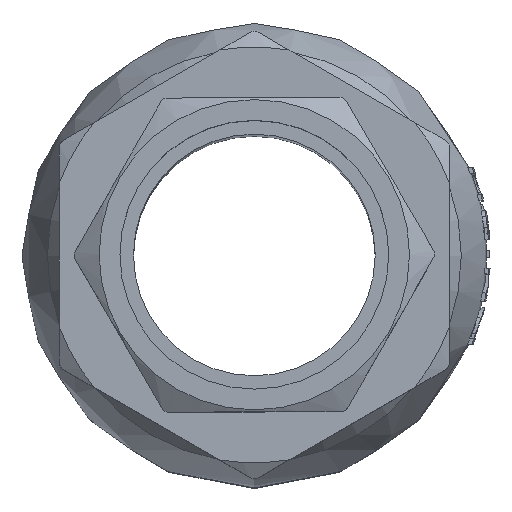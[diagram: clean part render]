
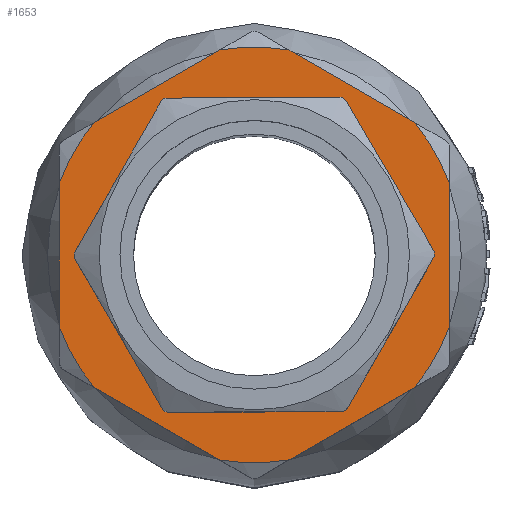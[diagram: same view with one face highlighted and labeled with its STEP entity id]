
A CAD part, top view. The second image highlights one B-rep face of the part: STEP entity #1653.
In plain terms, the highlighted planar face has unit normal (0, 0, 1).
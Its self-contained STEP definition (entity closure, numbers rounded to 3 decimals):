
#1653=ADVANCED_FACE('',(#4316,#4318),#4320,.T.);
#4316=FACE_BOUND('',#4317,.T.);
#4317=EDGE_LOOP('',(#5455,#5456,#5457,#5458,#5459,#5460,#5461,#5462,#5463,#5464,
#5465,#5466));
#4318=FACE_BOUND('',#4319,.T.);
#4319=EDGE_LOOP('',(#5467,#5468,#5469,#5470,#5471,#5472,#5473,#5474,#5475,#5476,
#5477,#5478));
#4320=PLANE('',#4321);
#4321=AXIS2_PLACEMENT_3D('',#4322,#4323,#4324);
#4322=CARTESIAN_POINT('',(0.,20.795,82.));
#4323=DIRECTION('',(0.,0.,1.));
#4324=DIRECTION('',(1.,0.,0.));
#5455=ORIENTED_EDGE('',*,*,#6007,.T.);
#5456=ORIENTED_EDGE('',*,*,#5990,.T.);
#5457=ORIENTED_EDGE('',*,*,#5996,.T.);
#5458=ORIENTED_EDGE('',*,*,#5978,.T.);
#5459=ORIENTED_EDGE('',*,*,#5985,.T.);
#5460=ORIENTED_EDGE('',*,*,#6093,.T.);
#5461=ORIENTED_EDGE('',*,*,#5965,.T.);
#5462=ORIENTED_EDGE('',*,*,#5972,.T.);
#5463=ORIENTED_EDGE('',*,*,#6021,.T.);
#5464=ORIENTED_EDGE('',*,*,#6012,.T.);
#5465=ORIENTED_EDGE('',*,*,#6018,.T.);
#5466=ORIENTED_EDGE('',*,*,#6001,.T.);
#5467=ORIENTED_EDGE('',*,*,#6058,.T.);
#5468=ORIENTED_EDGE('',*,*,#6041,.F.);
#5469=ORIENTED_EDGE('',*,*,#6039,.T.);
#5470=ORIENTED_EDGE('',*,*,#6024,.F.);
#5471=ORIENTED_EDGE('',*,*,#6094,.T.);
#5472=ORIENTED_EDGE('',*,*,#6044,.F.);
#5473=ORIENTED_EDGE('',*,*,#6047,.T.);
#5474=ORIENTED_EDGE('',*,*,#6049,.F.);
#5475=ORIENTED_EDGE('',*,*,#6051,.T.);
#5476=ORIENTED_EDGE('',*,*,#6053,.F.);
#5477=ORIENTED_EDGE('',*,*,#6055,.T.);
#5478=ORIENTED_EDGE('',*,*,#6057,.F.);
#5965=EDGE_CURVE('',#6730,#6728,#6731,.T.);
#5972=EDGE_CURVE('',#6728,#6741,#6743,.T.);
#5978=EDGE_CURVE('',#6754,#6752,#6755,.T.);
#5985=EDGE_CURVE('',#6752,#6765,#6767,.T.);
#5990=EDGE_CURVE('',#6775,#6773,#6776,.T.);
#5996=EDGE_CURVE('',#6773,#6754,#6786,.T.);
#6001=EDGE_CURVE('',#6794,#6792,#6795,.T.);
#6007=EDGE_CURVE('',#6792,#6775,#6805,.T.);
#6012=EDGE_CURVE('',#6813,#6811,#6814,.T.);
#6018=EDGE_CURVE('',#6811,#6794,#6824,.T.);
#6021=EDGE_CURVE('',#6741,#6813,#6827,.T.);
#6024=EDGE_CURVE('',#6831,#6833,#6834,.F.);
#6039=EDGE_CURVE('',#6861,#6833,#6862,.T.);
#6041=EDGE_CURVE('',#6861,#6864,#6865,.F.);
#6044=EDGE_CURVE('',#6867,#6869,#6870,.F.);
#6047=EDGE_CURVE('',#6867,#6872,#6874,.T.);
#6049=EDGE_CURVE('',#6875,#6872,#6877,.F.);
#6051=EDGE_CURVE('',#6875,#6878,#6880,.T.);
#6053=EDGE_CURVE('',#6881,#6878,#6883,.F.);
#6055=EDGE_CURVE('',#6881,#6884,#6886,.T.);
#6057=EDGE_CURVE('',#6887,#6884,#6889,.F.);
#6058=EDGE_CURVE('',#6887,#6864,#6890,.T.);
#6093=EDGE_CURVE('',#6765,#6730,#6940,.T.);
#6094=EDGE_CURVE('',#6831,#6869,#6941,.T.);
#6728=VERTEX_POINT('',#14413);
#6730=VERTEX_POINT('',#14435);
#6731=CIRCLE('',#14436,27.522);
#6741=VERTEX_POINT('',#14511);
#6743=LINE('',#14533,#14534);
#6752=VERTEX_POINT('',#14664);
#6754=VERTEX_POINT('',#14684);
#6755=LINE('',#14685,#14686);
#6765=VERTEX_POINT('',#14755);
#6767=CIRCLE('',#14775,27.522);
#6773=VERTEX_POINT('',#14902);
#6775=VERTEX_POINT('',#14924);
#6776=LINE('',#14925,#14926);
#6786=CIRCLE('',#15001,27.522);
#6792=VERTEX_POINT('',#15128);
#6794=VERTEX_POINT('',#15148);
#6795=LINE('',#15149,#15150);
#6805=CIRCLE('',#15219,27.522);
#6811=VERTEX_POINT('',#15346);
#6813=VERTEX_POINT('',#15366);
#6814=LINE('',#15367,#15368);
#6824=CIRCLE('',#15437,27.522);
#6827=CIRCLE('',#15559,27.522);
#6831=VERTEX_POINT('',#15624);
#6833=VERTEX_POINT('',#15628);
#6834=CIRCLE('',#15629,1.);
#6861=VERTEX_POINT('',#16200);
#6862=LINE('',#16201,#16202);
#6864=VERTEX_POINT('',#16207);
#6865=CIRCLE('',#16208,1.);
#6867=VERTEX_POINT('',#16215);
#6869=VERTEX_POINT('',#16219);
#6870=CIRCLE('',#16220,1.);
#6872=VERTEX_POINT('',#16227);
#6874=LINE('',#16231,#16232);
#6875=VERTEX_POINT('',#16234);
#6877=CIRCLE('',#16238,1.);
#6878=VERTEX_POINT('',#16242);
#6880=LINE('',#16246,#16247);
#6881=VERTEX_POINT('',#16249);
#6883=CIRCLE('',#16253,1.);
#6884=VERTEX_POINT('',#16257);
#6886=LINE('',#16261,#16262);
#6887=VERTEX_POINT('',#16264);
#6889=CIRCLE('',#16268,1.);
#6890=LINE('',#16272,#16273);
#6940=LINE('',#16479,#16480);
#6941=LINE('',#16482,#16483);
#14413=CARTESIAN_POINT('',(25.795,-9.594,82.));
#14435=CARTESIAN_POINT('',(21.206,-17.542,82.));
#14436=AXIS2_PLACEMENT_3D('',#14437,#14438,#14439);
#14437=CARTESIAN_POINT('',(0.,0.,82.));
#14438=DIRECTION('',(0.,0.,1.));
#14439=DIRECTION('',(0.771,-0.637,0.));
#14511=CARTESIAN_POINT('',(25.795,9.594,82.));
#14533=CARTESIAN_POINT('',(25.795,-9.594,82.));
#14534=VECTOR('',#14535,1.);
#14535=DIRECTION('',(0.,1.,0.));
#14664=CARTESIAN_POINT('',(-4.589,-27.136,82.));
#14684=CARTESIAN_POINT('',(-21.206,-17.542,82.));
#14685=CARTESIAN_POINT('',(-21.206,-17.542,82.));
#14686=VECTOR('',#14687,1.);
#14687=DIRECTION('',(0.866,-0.5,0.));
#14755=CARTESIAN_POINT('',(4.589,-27.136,82.));
#14775=AXIS2_PLACEMENT_3D('',#14776,#14777,#14778);
#14776=CARTESIAN_POINT('',(0.,0.,82.));
#14777=DIRECTION('',(0.,0.,1.));
#14778=DIRECTION('',(-0.167,-0.986,0.));
#14902=CARTESIAN_POINT('',(-25.795,-9.594,82.));
#14924=CARTESIAN_POINT('',(-25.795,9.594,82.));
#14925=CARTESIAN_POINT('',(-25.795,9.594,82.));
#14926=VECTOR('',#14927,1.);
#14927=DIRECTION('',(0.,-1.,0.));
#15001=AXIS2_PLACEMENT_3D('',#15002,#15003,#15004);
#15002=CARTESIAN_POINT('',(0.,0.,82.));
#15003=DIRECTION('',(0.,0.,1.));
#15004=DIRECTION('',(-0.937,-0.349,0.));
#15128=CARTESIAN_POINT('',(-21.206,17.542,82.));
#15148=CARTESIAN_POINT('',(-4.589,27.136,82.));
#15149=CARTESIAN_POINT('',(-4.589,27.136,82.));
#15150=VECTOR('',#15151,1.);
#15151=DIRECTION('',(-0.866,-0.5,0.));
#15219=AXIS2_PLACEMENT_3D('',#15220,#15221,#15222);
#15220=CARTESIAN_POINT('',(0.,0.,82.));
#15221=DIRECTION('',(0.,0.,1.));
#15222=DIRECTION('',(-0.771,0.637,0.));
#15346=CARTESIAN_POINT('',(4.589,27.136,82.));
#15366=CARTESIAN_POINT('',(21.206,17.542,82.));
#15367=CARTESIAN_POINT('',(21.206,17.542,82.));
#15368=VECTOR('',#15369,1.);
#15369=DIRECTION('',(-0.866,0.5,0.));
#15437=AXIS2_PLACEMENT_3D('',#15438,#15439,#15440);
#15438=CARTESIAN_POINT('',(0.,0.,82.));
#15439=DIRECTION('',(0.,0.,1.));
#15440=DIRECTION('',(0.167,0.986,0.));
#15559=AXIS2_PLACEMENT_3D('',#15560,#15561,#15562);
#15560=CARTESIAN_POINT('',(0.,0.,82.));
#15561=DIRECTION('',(0.,0.,1.));
#15562=DIRECTION('',(0.937,0.349,0.));
#15624=CARTESIAN_POINT('',(11.523,-20.743,82.));
#15628=CARTESIAN_POINT('',(12.387,-20.239,82.));
#15629=AXIS2_PLACEMENT_3D('',#15630,#15631,#15632);
#15630=CARTESIAN_POINT('',(11.519,-19.743,82.));
#15631=DIRECTION('',(0.,0.,-1.));
#15632=DIRECTION('',(0.868,-0.496,0.));
#16200=CARTESIAN_POINT('',(23.725,-0.392,82.));
#16201=CARTESIAN_POINT('',(23.725,-0.392,82.));
#16202=VECTOR('',#16203,1.);
#16203=DIRECTION('',(-0.496,-0.868,0.));
#16207=CARTESIAN_POINT('',(23.721,0.608,82.));
#16208=AXIS2_PLACEMENT_3D('',#16209,#16210,#16211);
#16209=CARTESIAN_POINT('',(22.857,0.104,82.));
#16210=DIRECTION('',(0.,0.,-1.));
#16211=DIRECTION('',(0.864,0.504,0.));
#16215=CARTESIAN_POINT('',(-12.202,-20.351,82.));
#16219=CARTESIAN_POINT('',(-11.334,-20.847,82.));
#16220=AXIS2_PLACEMENT_3D('',#16221,#16222,#16223);
#16221=CARTESIAN_POINT('',(-11.339,-19.847,82.));
#16222=DIRECTION('',(0.,0.,-1.));
#16223=DIRECTION('',(0.005,-1.,0.));
#16227=CARTESIAN_POINT('',(-23.721,-0.608,82.));
#16231=CARTESIAN_POINT('',(-12.202,-20.351,82.));
#16232=VECTOR('',#16233,1.);
#16233=DIRECTION('',(-0.504,0.864,0.));
#16234=CARTESIAN_POINT('',(-23.725,0.392,82.));
#16238=AXIS2_PLACEMENT_3D('',#16239,#16240,#16241);
#16239=CARTESIAN_POINT('',(-22.857,-0.104,82.));
#16240=DIRECTION('',(0.,0.,-1.));
#16241=DIRECTION('',(-0.864,-0.504,0.));
#16242=CARTESIAN_POINT('',(-12.387,20.239,82.));
#16246=CARTESIAN_POINT('',(-23.725,0.392,82.));
#16247=VECTOR('',#16248,1.);
#16248=DIRECTION('',(0.496,0.868,0.));
#16249=CARTESIAN_POINT('',(-11.523,20.743,82.));
#16253=AXIS2_PLACEMENT_3D('',#16254,#16255,#16256);
#16254=CARTESIAN_POINT('',(-11.519,19.743,82.));
#16255=DIRECTION('',(0.,0.,-1.));
#16256=DIRECTION('',(-0.868,0.496,0.));
#16257=CARTESIAN_POINT('',(11.334,20.847,82.));
#16261=CARTESIAN_POINT('',(-11.523,20.743,82.));
#16262=VECTOR('',#16263,1.);
#16263=DIRECTION('',(1.,0.005,0.));
#16264=CARTESIAN_POINT('',(12.202,20.351,82.));
#16268=AXIS2_PLACEMENT_3D('',#16269,#16270,#16271);
#16269=CARTESIAN_POINT('',(11.339,19.847,82.));
#16270=DIRECTION('',(0.,0.,-1.));
#16271=DIRECTION('',(-0.005,1.,0.));
#16272=CARTESIAN_POINT('',(12.202,20.351,82.));
#16273=VECTOR('',#16274,1.);
#16274=DIRECTION('',(0.504,-0.864,0.));
#16479=CARTESIAN_POINT('',(4.589,-27.136,82.));
#16480=VECTOR('',#16481,1.);
#16481=DIRECTION('',(0.866,0.5,0.));
#16482=CARTESIAN_POINT('',(11.523,-20.743,82.));
#16483=VECTOR('',#16484,1.);
#16484=DIRECTION('',(-1.,-0.005,0.));
